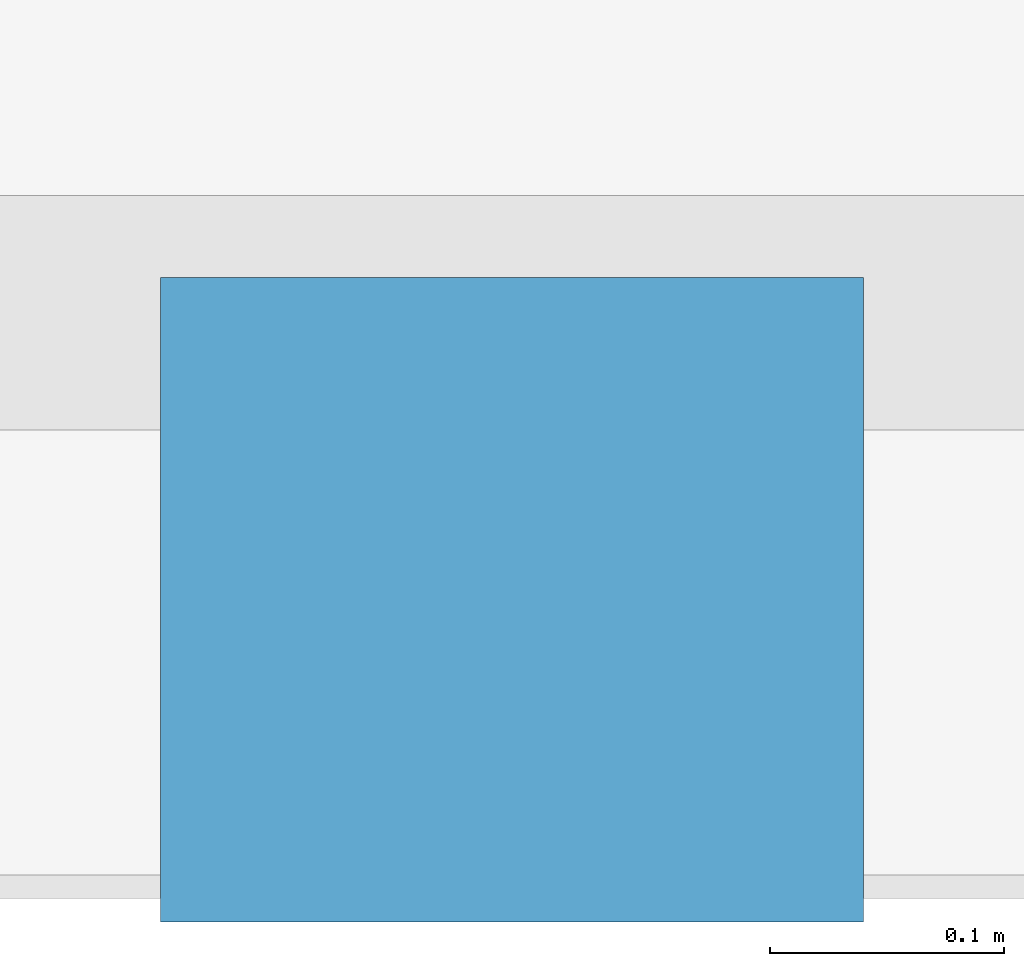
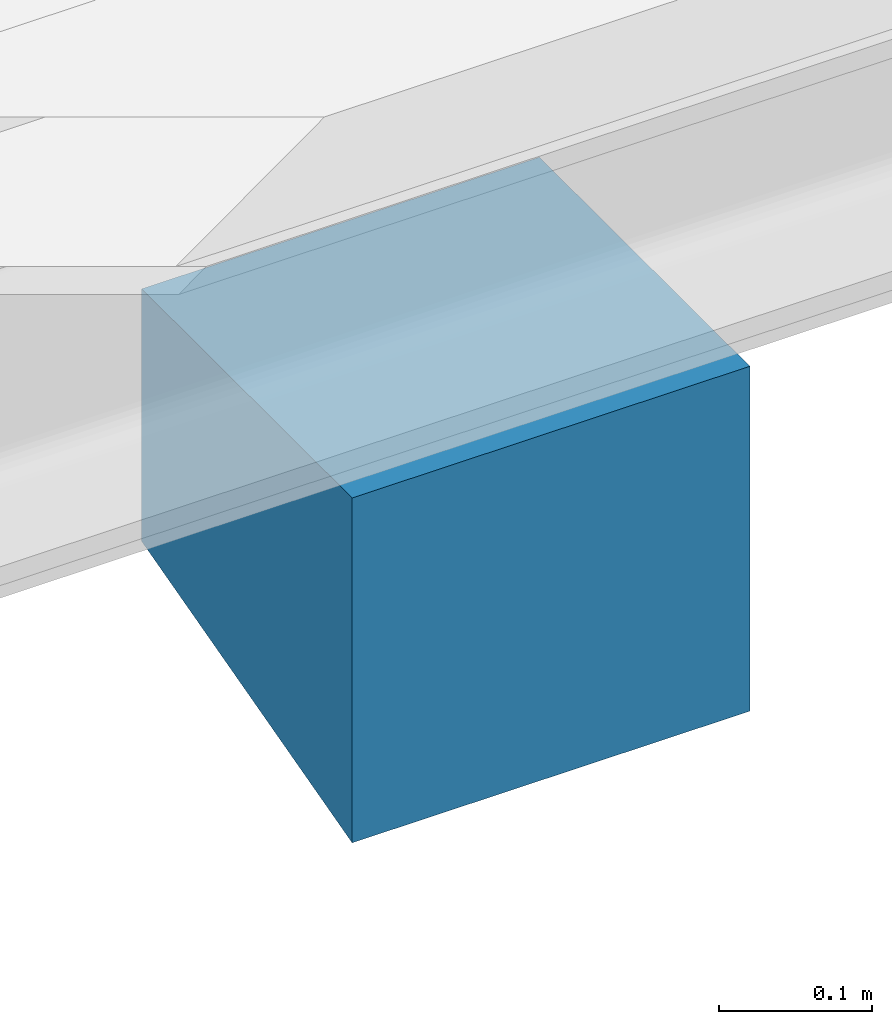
# One storey, part 14 of 14: 1 wall.
"""IFC2X3 building model written with IfcOpenShell, lengths in millimetres."""

from ifc_helpers import new_model, entity, si_unit, converted_unit, derived_unit, direction, frame, origin, place, context, subcontext, project, spatial, faceted_brep, material, type_object, element, save


model = new_model("IFC2X3")

# Units and contexts
model_context = context("Model", 3, precision=0.01, world=origin(), true_north=direction((6.12303176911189e-17, 1.0)))
body_context = subcontext(model_context, "Body", "Model", "MODEL_VIEW")
ifc_project = project(units=[si_unit("LENGTHUNIT", "METRE", prefix="MILLI"), si_unit("AREAUNIT", "SQUARE_METRE"), si_unit("VOLUMEUNIT", "CUBIC_METRE"), converted_unit("PLANEANGLEUNIT", "DEGREE", entity("IfcRatioMeasure", 0.0174532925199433), si_unit("PLANEANGLEUNIT", "RADIAN"), dimensions=[0, 0, 0, 0, 0, 0, 0]), si_unit("MASSUNIT", "GRAM", prefix="KILO"), derived_unit("MASSDENSITYUNIT", [(si_unit("MASSUNIT", "GRAM", prefix="KILO"), 1), (si_unit("LENGTHUNIT", "METRE"), -3)]), si_unit("TIMEUNIT", "SECOND"), si_unit("FREQUENCYUNIT", "HERTZ"), si_unit("THERMODYNAMICTEMPERATUREUNIT", "DEGREE_CELSIUS"), derived_unit("THERMALTRANSMITTANCEUNIT", [(si_unit("MASSUNIT", "GRAM", prefix="KILO"), 1), (si_unit("THERMODYNAMICTEMPERATUREUNIT", "KELVIN"), -1), (si_unit("TIMEUNIT", "SECOND"), -3)]), derived_unit("VOLUMETRICFLOWRATEUNIT", [(si_unit("LENGTHUNIT", "METRE"), 3), (si_unit("TIMEUNIT", "SECOND"), -1)]), si_unit("ELECTRICCURRENTUNIT", "AMPERE"), si_unit("ELECTRICVOLTAGEUNIT", "VOLT"), si_unit("POWERUNIT", "WATT"), si_unit("FORCEUNIT", "NEWTON", prefix="KILO"), si_unit("ILLUMINANCEUNIT", "LUX"), si_unit("LUMINOUSFLUXUNIT", "LUMEN"), si_unit("LUMINOUSINTENSITYUNIT", "CANDELA"), derived_unit("USERDEFINED", [(si_unit("MASSUNIT", "GRAM", prefix="KILO"), -1), (si_unit("LENGTHUNIT", "METRE"), -2), (si_unit("TIMEUNIT", "SECOND"), 3), (si_unit("LUMINOUSFLUXUNIT", "LUMEN"), 1)]), derived_unit("LINEARVELOCITYUNIT", [(si_unit("LENGTHUNIT", "METRE"), 1), (si_unit("TIMEUNIT", "SECOND"), -1)]), si_unit("PRESSUREUNIT", "PASCAL"), derived_unit("USERDEFINED", [(si_unit("LENGTHUNIT", "METRE"), -2), (si_unit("MASSUNIT", "GRAM", prefix="KILO"), 1), (si_unit("TIMEUNIT", "SECOND"), -2)])], contexts=[model_context])

# Site, building, storey
site_placement = place(None, origin())
site = spatial("IfcSite", under=ifc_project, at=site_placement, Name="Default", CompositionType="ELEMENT")
building_placement = place(site_placement, origin())
building = spatial("IfcBuilding", under=site, at=building_placement, Name="niet gebruiken", CompositionType="ELEMENT")
storey_placement = place(building_placement, frame((0.0, 0.0, 15570.0)))
storey = spatial("IfcBuildingStorey", under=building, at=storey_placement, Name="05 vijfde verdieping", CompositionType="ELEMENT", Elevation=15570.0)

# Wall
ifc_material = material(Name="NLRS_f2_beton prefab")
wall_type = type_object("IfcWallType", Name="NLRS_21.21_SF_WPB_oplegnok prefabbeton_gen:275x275 met afschuining 15gr", PredefinedType="NOTDEFINED", material=ifc_material)
wall_placement = place(storey_placement, frame((118650.0, 1550.0, -740.0)))
element("IfcWall", 1, at=wall_placement, inside=storey, type_object=wall_type, material=ifc_material, Name="NLRS_21.21_SF_WPB_oplegnok prefabbeton_gen:275x275 met afschuining 15gr", ObjectType="NLRS_21.21_SF_WPB_oplegnok prefabbeton_gen:275x275 met afschuining 15gr", context=body_context, shape_type="Brep", body=[
    faceted_brep([(0.0, 0.0, 275.0), (0.0, 275.0, 275.0), (0.0, 275.0, 73.6860279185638), (0.0, 0.0, 0.0), (300.0, 0.0, 275.0), (300.0, 0.0, 0.0), (300.0, 275.0, 73.686027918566), (300.0, 275.0, 275.0)], [[[0, 1, 2, 3]], [[4, 5, 6, 7]], [[3, 5, 4, 0]], [[1, 7, 6, 2]], [[0, 4, 7, 1]], [[2, 6, 5, 3]]]),
])

save(model, "model.ifc")
